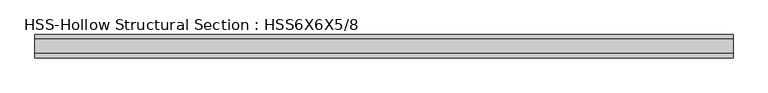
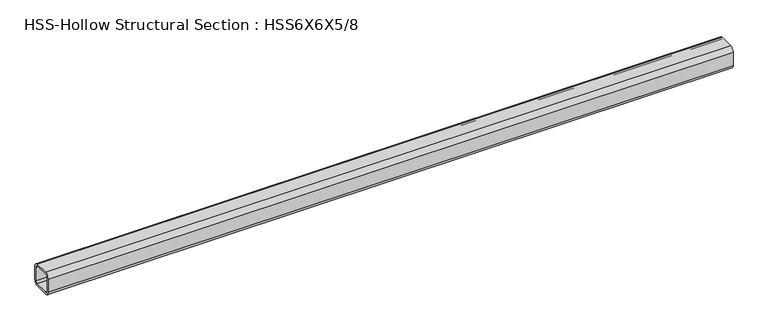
"""IFC4 building model written with IfcOpenShell, lengths in millimetres: beam geometry, HSS-Hollow Structural Section : HSS6X6X5/8."""

from ifc_helpers import new_model, si_unit, point, frame, frame_2d, origin, place, context, project, spatial, polyline, circle_curve, trimmed, segment, composite_curve, outline, extrude, source, transform, mapped, element, save


def hss_hollow_structural_section_hss6x6x5_8_8f99bb24(model_context):
    return source(origin(), model_context, "Body", "SweptSolid", [
        extrude(outline(composite_curve([segment(trimmed(circle_curve(frame_2d((-46.6852, 46.6852)), 29.5148), [point((-76.2, 46.6852))], [point((-46.6852, 76.2))], False, "CARTESIAN"), True, "CONTINUOUS"), segment(polyline([(-46.6852, 76.2), (46.6852, 76.2)]), True, "CONTINUOUS"), segment(trimmed(circle_curve(frame_2d((46.6852, 46.6852)), 29.5148), [point((46.6852, 76.2))], [point((76.2, 46.6852))], False, "CARTESIAN"), True, "CONTINUOUS"), segment(polyline([(76.2, 46.6852), (76.2, -46.6852)]), True, "CONTINUOUS"), segment(trimmed(circle_curve(frame_2d((46.6852, -46.6852)), 29.5148), [point((76.2, -46.6852))], [point((46.6852, -76.2))], False, "CARTESIAN"), True, "CONTINUOUS"), segment(polyline([(46.6852, -76.2), (-46.6852, -76.2)]), True, "CONTINUOUS"), segment(trimmed(circle_curve(frame_2d((-46.6852, -46.6852)), 29.5148), [point((-46.6852, -76.2))], [point((-76.2, -46.6852))], False, "CARTESIAN"), True, "CONTINUOUS"), segment(polyline([(-76.2, -46.6852), (-76.2, 46.6852)]), True, "CONTINUOUS")], self_intersect=False), holes=[composite_curve([segment(polyline([(46.6852, 61.4426), (-46.6852, 61.4426)]), True, "CONTINUOUS"), segment(trimmed(circle_curve(frame_2d((-46.6852, 46.6852)), 14.7574), [point((-46.6852, 61.4426))], [point((-61.4426, 46.6852))], True, "CARTESIAN"), True, "CONTINUOUS"), segment(polyline([(-61.4426, 46.6852), (-61.4426, -46.6852)]), True, "CONTINUOUS"), segment(trimmed(circle_curve(frame_2d((-46.6852, -46.6852)), 14.7574), [point((-61.4426, -46.6852))], [point((-46.6852, -61.4426))], True, "CARTESIAN"), True, "CONTINUOUS"), segment(polyline([(-46.6852, -61.4426), (46.6852, -61.4426)]), True, "CONTINUOUS"), segment(trimmed(circle_curve(frame_2d((46.6852, -46.6852)), 14.7574), [point((46.6852, -61.4426))], [point((61.4426, -46.6852))], True, "CARTESIAN"), True, "CONTINUOUS"), segment(polyline([(61.4426, -46.6852), (61.4426, 46.6852)]), True, "CONTINUOUS"), segment(trimmed(circle_curve(frame_2d((46.6852, 46.6852)), 14.7574), [point((61.4426, 46.6852))], [point((46.6852, 61.4426))], True, "CARTESIAN"), True, "CONTINUOUS")], self_intersect=False)]), frame((-2273.3, 0.0, 0.0), z_axis=(1.0, 0.0, 0.0), x_axis=(0.0, 1.0, 0.0)), (0.0, 0.0, 1.0), 4546.6),
    ])


if __name__ == "__main__":
    model = new_model("IFC4")
    model_context = context("Model", 3, world=origin())
    ifc_project = project(units=[si_unit("LENGTHUNIT", "METRE", prefix="MILLI")], contexts=[model_context])
    site = spatial("IfcSite", under=ifc_project)
    building = spatial("IfcBuilding", under=site)
    placement = place(None, origin())
    hss_hollow_structural_section_hss6x6x5_8_shape = hss_hollow_structural_section_hss6x6x5_8_8f99bb24(model_context)
    element("IfcBeam", 1, ObjectType="HSS-Hollow Structural Section : HSS6X6X5/8", at=placement, inside=building, context=model_context, shape_type="MappedRepresentation", body=[
        mapped(hss_hollow_structural_section_hss6x6x5_8_shape, transform((0.0, 0.0, 0.0), x_axis=(1.0, 0.0, 0.0), y_axis=(0.0, 1.0, 0.0), z_axis=(0.0, 0.0, 1.0))),
    ])
    save(model, "model.ifc")
